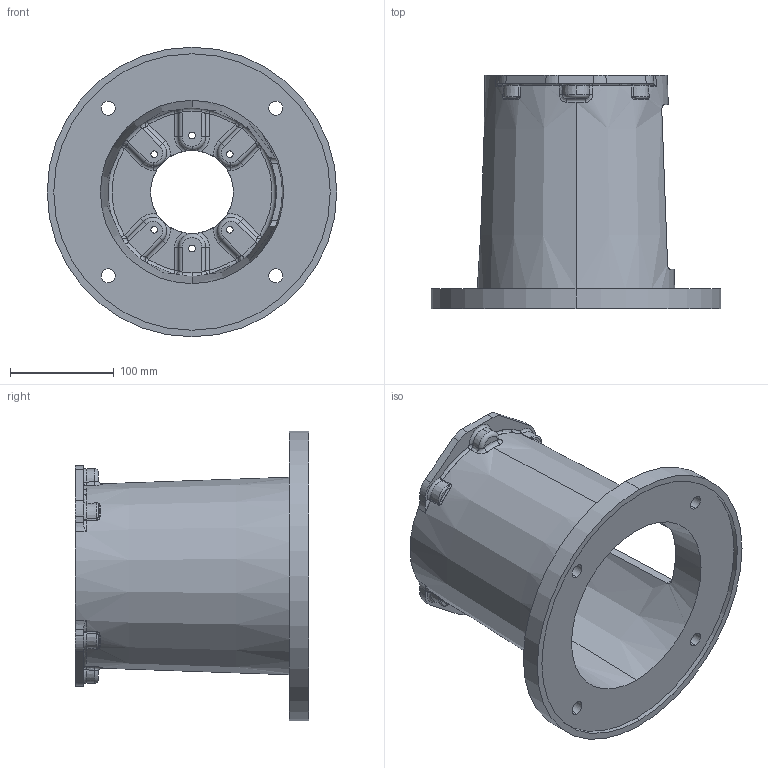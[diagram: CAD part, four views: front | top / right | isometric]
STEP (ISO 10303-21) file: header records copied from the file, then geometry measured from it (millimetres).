
FILE_DESCRIPTION (( 'STEP AP203' ), '1' );
FILE_NAME ('M2848680M.STEP', '2015-01-19T16:32:34', ( '' ), ( '' ), 'SwSTEP 2.0', 'SolidWorks 2014', '' );
FILE_SCHEMA (( 'CONFIG_CONTROL_DESIGN' ));
Length unit declared in the file: inch
Products named in the file (1): M2848680M
Bounding box: 279.4 x 225.3 x 279.4 mm (x, y, z)
Volume: 1570503.1 mm3; surface area: 358401.4 mm2
Topology: 1 solids, 1 shells, 339 faces, 853 edges, 498 vertices
Faces by surface type: torus 97, cylinder 86, bspline 64, plane 50, sphere 24, cone 18
Entity records: 13817 total; most frequent: CARTESIAN_POINT 6039, ORIENTED_EDGE 1666, DIRECTION 1638, EDGE_CURVE 833, AXIS2_PLACEMENT_3D 739, VERTEX_POINT 498, CIRCLE 463, EDGE_LOOP 365
